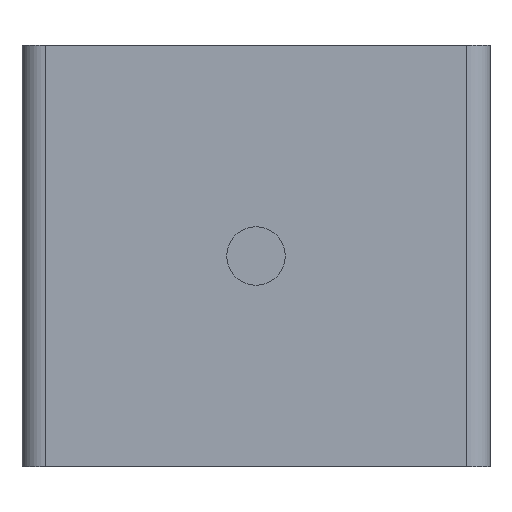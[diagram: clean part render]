
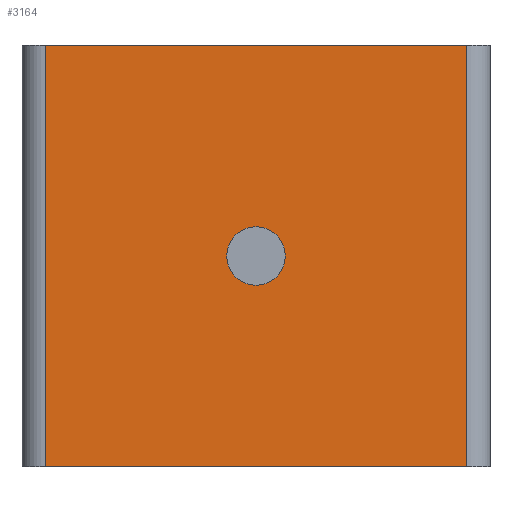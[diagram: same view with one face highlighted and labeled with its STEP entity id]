
A CAD part, front view. The second image highlights one B-rep face of the part: STEP entity #3164.
In plain terms, the highlighted planar face has unit normal (0, -1, 0).
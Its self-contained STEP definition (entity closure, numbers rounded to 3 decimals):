
#66 = VECTOR ( 'NONE', #3601, 1000. ) ;
#86 = VERTEX_POINT ( 'NONE', #2068 ) ;
#138 = CIRCLE ( 'NONE', #490, 2.5 ) ;
#149 = EDGE_CURVE ( 'NONE', #2270, #86, #1663, .T. ) ;
#237 = CARTESIAN_POINT ( 'NONE',  ( -18., -45.98, 0. ) ) ;
#298 = CARTESIAN_POINT ( 'NONE',  ( 0., -45.98, -20.5 ) ) ;
#303 = EDGE_CURVE ( 'NONE', #2932, #2844, #138, .T. ) ;
#315 = CARTESIAN_POINT ( 'NONE',  ( 0., -45.98, -18. ) ) ;
#401 = VECTOR ( 'NONE', #3232, 1000. ) ;
#439 = EDGE_LOOP ( 'NONE', ( #2283, #558 ) ) ;
#490 = AXIS2_PLACEMENT_3D ( 'NONE', #971, #3246, #1303 ) ;
#558 = ORIENTED_EDGE ( 'NONE', *, *, #4043, .F. ) ;
#588 = CIRCLE ( 'NONE', #3725, 2.5 ) ;
#658 = DIRECTION ( 'NONE',  ( 0., 0., 1. ) ) ;
#947 = CARTESIAN_POINT ( 'NONE',  ( -18., -45.98, -18. ) ) ;
#953 = LINE ( 'NONE', #3274, #66 ) ;
#971 = CARTESIAN_POINT ( 'NONE',  ( 0., -45.98, -18. ) ) ;
#994 = DIRECTION ( 'NONE',  ( 0., 0., 1. ) ) ;
#1134 = EDGE_CURVE ( 'NONE', #3607, #2402, #1177, .T. ) ;
#1177 = LINE ( 'NONE', #947, #401 ) ;
#1303 = DIRECTION ( 'NONE',  ( 0., 0., 1. ) ) ;
#1446 = EDGE_LOOP ( 'NONE', ( #2186, #1804, #2407, #2008 ) ) ;
#1480 = CARTESIAN_POINT ( 'NONE',  ( 18., -45.98, -36. ) ) ;
#1545 = VECTOR ( 'NONE', #994, 1000. ) ;
#1663 = LINE ( 'NONE', #3278, #1545 ) ;
#1804 = ORIENTED_EDGE ( 'NONE', *, *, #149, .T. ) ;
#1871 = DIRECTION ( 'NONE',  ( 0., 1., 0. ) ) ;
#2008 = ORIENTED_EDGE ( 'NONE', *, *, #1134, .F. ) ;
#2068 = CARTESIAN_POINT ( 'NONE',  ( 18., -45.98, 0. ) ) ;
#2186 = ORIENTED_EDGE ( 'NONE', *, *, #3378, .T. ) ;
#2270 = VERTEX_POINT ( 'NONE', #1480 ) ;
#2283 = ORIENTED_EDGE ( 'NONE', *, *, #303, .F. ) ;
#2402 = VERTEX_POINT ( 'NONE', #237 ) ;
#2407 = ORIENTED_EDGE ( 'NONE', *, *, #3902, .T. ) ;
#2533 = FACE_BOUND ( 'NONE', #439, .T. ) ;
#2541 = CARTESIAN_POINT ( 'NONE',  ( 0., -45.98, 0. ) ) ;
#2614 = DIRECTION ( 'NONE',  ( 0., -1., 0. ) ) ;
#2651 = LINE ( 'NONE', #2541, #4183 ) ;
#2844 = VERTEX_POINT ( 'NONE', #298 ) ;
#2874 = AXIS2_PLACEMENT_3D ( 'NONE', #3819, #1871, #4157 ) ;
#2932 = VERTEX_POINT ( 'NONE', #3641 ) ;
#3164 = ADVANCED_FACE ( 'NONE', ( #2533, #4172 ), #3167, .F. ) ;
#3167 = PLANE ( 'NONE',  #2874 ) ;
#3232 = DIRECTION ( 'NONE',  ( 0., 0., 1. ) ) ;
#3246 = DIRECTION ( 'NONE',  ( 0., -1., 0. ) ) ;
#3274 = CARTESIAN_POINT ( 'NONE',  ( 0., -45.98, -36. ) ) ;
#3278 = CARTESIAN_POINT ( 'NONE',  ( 18., -45.98, -18. ) ) ;
#3378 = EDGE_CURVE ( 'NONE', #3607, #2270, #953, .T. ) ;
#3526 = DIRECTION ( 'NONE',  ( -1., 0., 0. ) ) ;
#3601 = DIRECTION ( 'NONE',  ( 1., 0., 0. ) ) ;
#3607 = VERTEX_POINT ( 'NONE', #3774 ) ;
#3641 = CARTESIAN_POINT ( 'NONE',  ( 0., -45.98, -15.5 ) ) ;
#3725 = AXIS2_PLACEMENT_3D ( 'NONE', #315, #2614, #658 ) ;
#3774 = CARTESIAN_POINT ( 'NONE',  ( -18., -45.98, -36. ) ) ;
#3819 = CARTESIAN_POINT ( 'NONE',  ( -18., -45.98, -36. ) ) ;
#3902 = EDGE_CURVE ( 'NONE', #86, #2402, #2651, .T. ) ;
#4043 = EDGE_CURVE ( 'NONE', #2844, #2932, #588, .T. ) ;
#4157 = DIRECTION ( 'NONE',  ( 0., 0., 1. ) ) ;
#4172 = FACE_OUTER_BOUND ( 'NONE', #1446, .T. ) ;
#4183 = VECTOR ( 'NONE', #3526, 1000. ) ;
